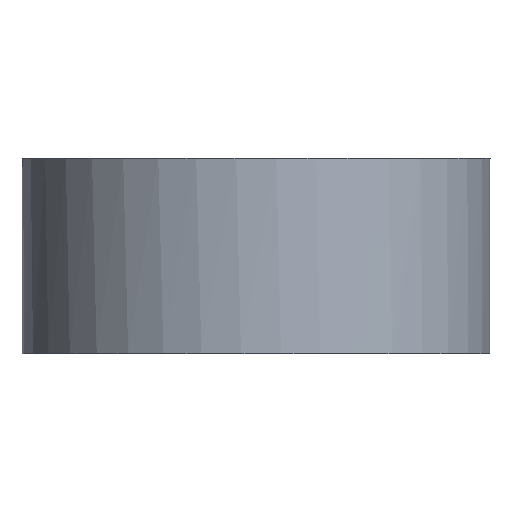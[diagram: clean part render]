
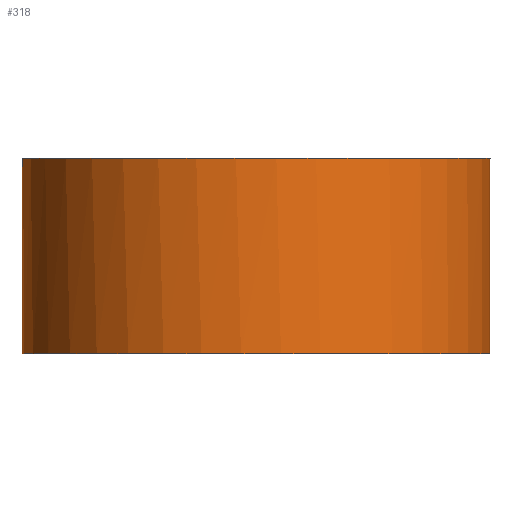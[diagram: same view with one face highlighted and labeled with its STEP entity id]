
A CAD part, left-side view. The second image highlights one B-rep face of the part: STEP entity #318.
In plain terms, the highlighted cylindrical face has radius 6 mm (diameter 12 mm), a full revolution.
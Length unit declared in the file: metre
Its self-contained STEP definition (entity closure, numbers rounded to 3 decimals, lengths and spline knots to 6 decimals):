
#22=LINE('',#508,#40);
#23=LINE('',#513,#41);
#40=VECTOR('',#402,1.);
#41=VECTOR('',#405,1.);
#58=ORIENTED_EDGE('',*,*,#140,.T.);
#59=ORIENTED_EDGE('',*,*,#141,.F.);
#60=ORIENTED_EDGE('',*,*,#142,.F.);
#61=ORIENTED_EDGE('',*,*,#143,.T.);
#62=ORIENTED_EDGE('',*,*,#144,.F.);
#140=EDGE_CURVE('',#181,#181,#212,.T.);
#141=EDGE_CURVE('',#182,#183,#22,.T.);
#142=EDGE_CURVE('',#184,#182,#213,.T.);
#143=EDGE_CURVE('',#184,#185,#23,.T.);
#144=EDGE_CURVE('',#183,#185,#214,.T.);
#181=VERTEX_POINT('',#507);
#182=VERTEX_POINT('',#509);
#183=VERTEX_POINT('',#510);
#184=VERTEX_POINT('',#512);
#185=VERTEX_POINT('',#514);
#212=CIRCLE('',#353,0.006);
#213=CIRCLE('',#354,0.006);
#214=CIRCLE('',#355,0.006);
#235=EDGE_LOOP('',(#58));
#236=EDGE_LOOP('',(#59,#60,#61,#62));
#271=FACE_BOUND('',#235,.T.);
#272=FACE_BOUND('',#236,.T.);
#307=CYLINDRICAL_SURFACE('',#352,0.006);
#318=ADVANCED_FACE('',(#271,#272),#307,.T.);
#352=AXIS2_PLACEMENT_3D('',#505,#398,#399);
#353=AXIS2_PLACEMENT_3D('',#506,#400,#401);
#354=AXIS2_PLACEMENT_3D('',#511,#403,#404);
#355=AXIS2_PLACEMENT_3D('',#515,#406,#407);
#398=DIRECTION('',(0.,0.,-1.));
#399=DIRECTION('',(-1.,0.,0.));
#400=DIRECTION('',(0.,0.,1.));
#401=DIRECTION('',(1.,0.,0.));
#402=DIRECTION('',(0.,0.,-1.));
#403=DIRECTION('',(0.,0.,1.));
#404=DIRECTION('',(1.,0.,0.));
#405=DIRECTION('',(0.,0.,-1.));
#406=DIRECTION('',(0.,0.,1.));
#407=DIRECTION('',(1.,0.,0.));
#505=CARTESIAN_POINT('',(0.,0.,0.005));
#506=CARTESIAN_POINT('',(0.,0.,0.));
#507=CARTESIAN_POINT('',(0.006,0.,0.));
#508=CARTESIAN_POINT('',(0.003317,-0.005,0.005));
#509=CARTESIAN_POINT('',(0.003317,-0.005,0.005));
#510=CARTESIAN_POINT('',(0.003317,-0.005,0.002));
#511=CARTESIAN_POINT('',(0.,0.,0.005));
#512=CARTESIAN_POINT('',(0.003317,0.005,0.005));
#513=CARTESIAN_POINT('',(0.003317,0.005,0.005));
#514=CARTESIAN_POINT('',(0.003317,0.005,0.002));
#515=CARTESIAN_POINT('',(0.,0.,0.002));
